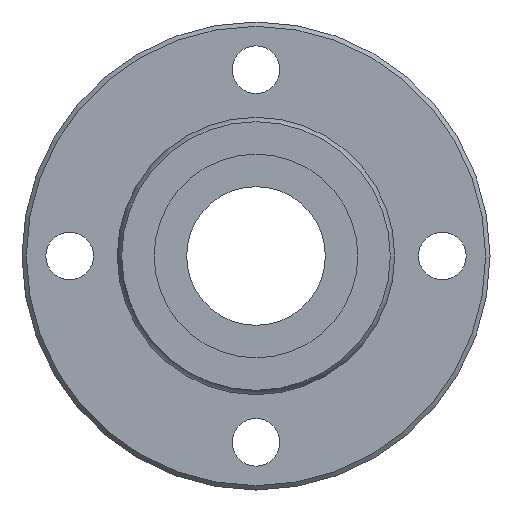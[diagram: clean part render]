
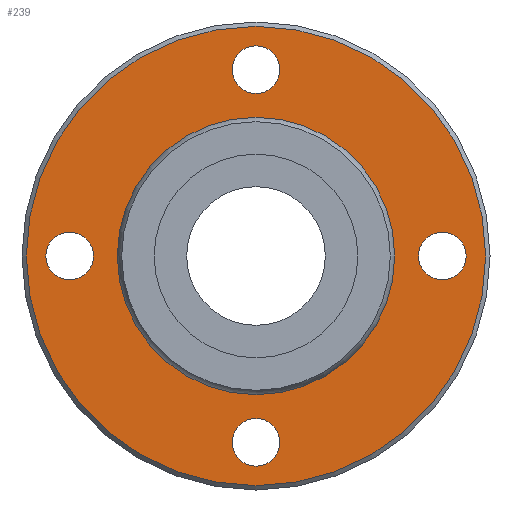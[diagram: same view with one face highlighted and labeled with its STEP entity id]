
A CAD part, left-side view. The second image highlights one B-rep face of the part: STEP entity #239.
In plain terms, the highlighted planar face has unit normal (-1, 0, 0).
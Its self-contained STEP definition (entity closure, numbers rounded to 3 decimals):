
#164=CARTESIAN_POINT('',(13.,0.,26.5));
#165=VERTEX_POINT('',#164);
#166=CARTESIAN_POINT('',(13.,0.0,0.0));
#167=DIRECTION('',(1.0,0.0,0.0));
#168=DIRECTION('',(0.0,0.0,-1.0));
#169=AXIS2_PLACEMENT_3D('',#166,#167,#168);
#170=CIRCLE('',#169,26.5);
#171=EDGE_CURVE('',#165,#165,#170,.T.);
#176=CARTESIAN_POINT('',(13.,0.0,21.387));
#177=DIRECTION('',(-1.0,0.0,0.0));
#178=DIRECTION('',(0.0,0.0,1.0));
#179=AXIS2_PLACEMENT_3D('',#176,#177,#178);
#180=PLANE('',#179);
#181=ORIENTED_EDGE('',*,*,#171,.F.);
#182=EDGE_LOOP('',(#181));
#183=FACE_OUTER_BOUND('',#182,.T.);
#184=CARTESIAN_POINT('',(13.,0.0,15.773));
#185=VERTEX_POINT('',#184);
#186=CARTESIAN_POINT('',(13.,0.0,0.0));
#187=DIRECTION('',(-1.0,0.0,0.0));
#188=DIRECTION('',(0.0,0.0,1.0));
#189=AXIS2_PLACEMENT_3D('',#186,#187,#188);
#190=CIRCLE('',#189,15.773);
#191=EDGE_CURVE('',#185,#185,#190,.T.);
#192=ORIENTED_EDGE('',*,*,#191,.F.);
#193=EDGE_LOOP('',(#192));
#194=FACE_BOUND('',#193,.T.);
#195=CARTESIAN_POINT('',(13.,-24.25,0.));
#196=VERTEX_POINT('',#195);
#197=CARTESIAN_POINT('',(13.,-21.5,0.));
#198=DIRECTION('',(1.0,0.0,0.0));
#199=DIRECTION('',(0.0,1.0,0.0));
#200=AXIS2_PLACEMENT_3D('',#197,#198,#199);
#201=CIRCLE('',#200,2.75);
#202=EDGE_CURVE('',#196,#196,#201,.T.);
#203=ORIENTED_EDGE('',*,*,#202,.T.);
#204=EDGE_LOOP('',(#203));
#205=FACE_BOUND('',#204,.T.);
#206=CARTESIAN_POINT('',(13.,18.75,0.));
#207=VERTEX_POINT('',#206);
#208=CARTESIAN_POINT('',(13.,21.5,0.));
#209=DIRECTION('',(1.0,0.0,0.0));
#210=DIRECTION('',(0.0,1.0,0.0));
#211=AXIS2_PLACEMENT_3D('',#208,#209,#210);
#212=CIRCLE('',#211,2.75);
#213=EDGE_CURVE('',#207,#207,#212,.T.);
#214=ORIENTED_EDGE('',*,*,#213,.T.);
#215=EDGE_LOOP('',(#214));
#216=FACE_BOUND('',#215,.T.);
#217=CARTESIAN_POINT('',(13.,-2.75,21.5));
#218=VERTEX_POINT('',#217);
#219=CARTESIAN_POINT('',(13.,0.,21.5));
#220=DIRECTION('',(1.0,0.0,0.0));
#221=DIRECTION('',(0.0,1.0,0.0));
#222=AXIS2_PLACEMENT_3D('',#219,#220,#221);
#223=CIRCLE('',#222,2.75);
#224=EDGE_CURVE('',#218,#218,#223,.T.);
#225=ORIENTED_EDGE('',*,*,#224,.T.);
#226=EDGE_LOOP('',(#225));
#227=FACE_BOUND('',#226,.T.);
#228=CARTESIAN_POINT('',(13.,-2.75,-21.5));
#229=VERTEX_POINT('',#228);
#230=CARTESIAN_POINT('',(13.,0.,-21.5));
#231=DIRECTION('',(1.0,0.0,0.0));
#232=DIRECTION('',(0.0,1.0,0.0));
#233=AXIS2_PLACEMENT_3D('',#230,#231,#232);
#234=CIRCLE('',#233,2.75);
#235=EDGE_CURVE('',#229,#229,#234,.T.);
#236=ORIENTED_EDGE('',*,*,#235,.T.);
#237=EDGE_LOOP('',(#236));
#238=FACE_BOUND('',#237,.T.);
#239=ADVANCED_FACE('',(#183,#194,#205,#216,#227,#238),#180,.T.);
